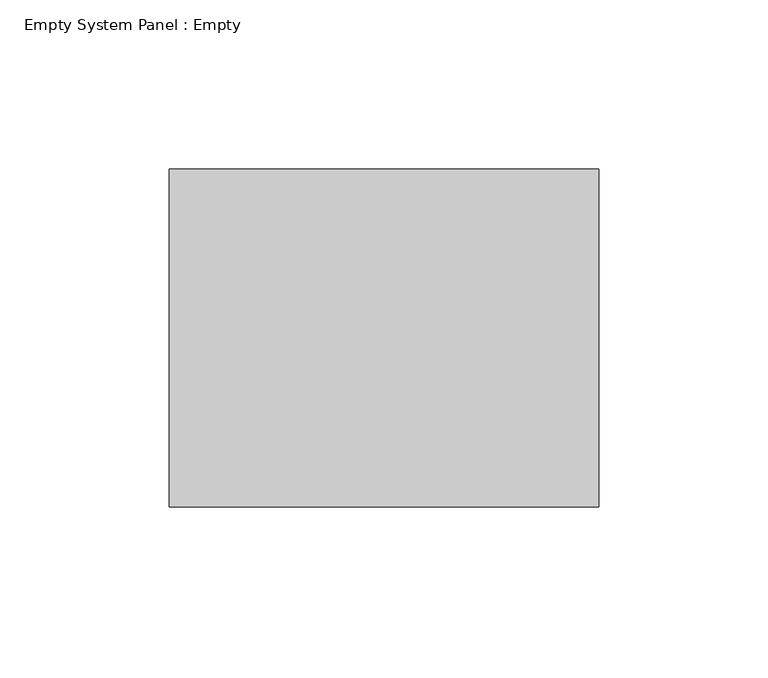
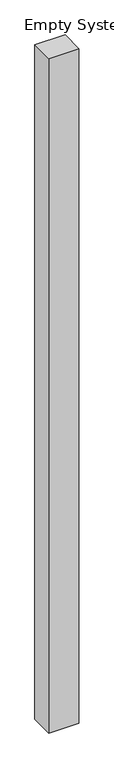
"""IFC4 building model written with IfcOpenShell, lengths in millimetres: plate geometry, Empty System Panel : Empty."""

from ifc_helpers import new_model, si_unit, origin, origin_with_axes, place, context, project, spatial, polyline, outline, extrude, source, transform, mapped, element, save


def empty_system_panel_empty_a9f5b765(model_context):
    return source(origin(), model_context, "Body", "SweptSolid", [
        extrude(outline(polyline([(63.5, 50.0), (-63.5, 50.0), (-63.5, 150.0), (63.5, 150.0), (63.5, 50.0)])), origin_with_axes(), (0.0, 0.0, 1.0), 3000.0),
    ])


if __name__ == "__main__":
    model = new_model("IFC4")
    model_context = context("Model", 3, world=origin())
    ifc_project = project(units=[si_unit("LENGTHUNIT", "METRE", prefix="MILLI")], contexts=[model_context])
    site = spatial("IfcSite", under=ifc_project)
    building = spatial("IfcBuilding", under=site)
    placement = place(None, origin())
    empty_system_panel_empty_shape = empty_system_panel_empty_a9f5b765(model_context)
    element("IfcPlate", 1, ObjectType="Empty System Panel : Empty", at=placement, inside=building, context=model_context, shape_type="MappedRepresentation", body=[
        mapped(empty_system_panel_empty_shape, transform((0.0, 0.0, 0.0), x_axis=(1.0, 0.0, 0.0), y_axis=(0.0, 1.0, 0.0), z_axis=(0.0, 0.0, 1.0))),
    ])
    save(model, "model.ifc")
